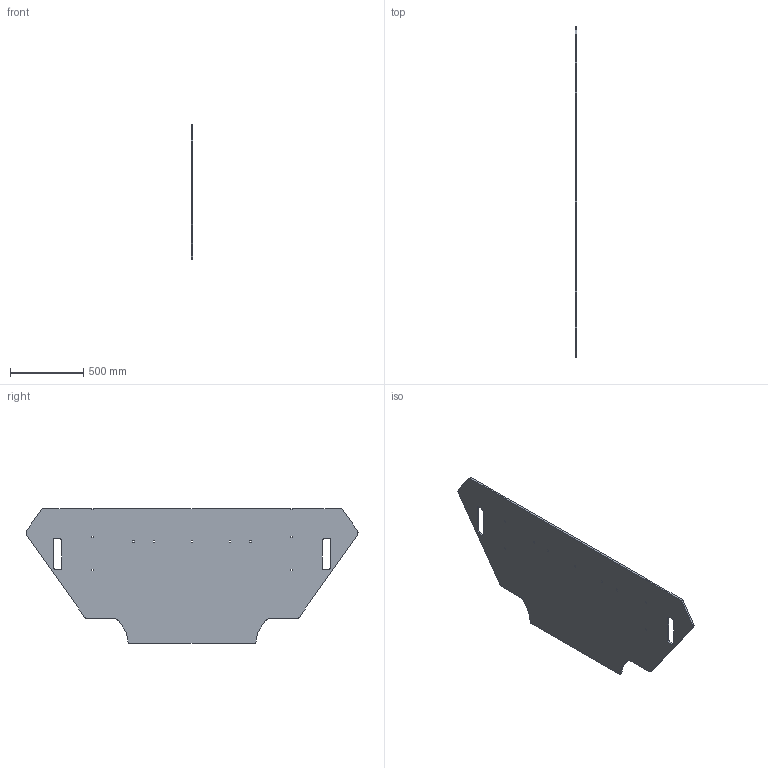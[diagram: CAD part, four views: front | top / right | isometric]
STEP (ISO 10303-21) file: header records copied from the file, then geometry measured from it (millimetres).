
FILE_DESCRIPTION(/* description */ (''),/* implementation_level */ '2;1');
FILE_NAME(/* name */ '6484821ugm000~01.stp',/* time_stamp */ '2023-11-29T07:43:26+01:00',/* author */ (''),/* organization */ (''),/* preprocessor_version */ 'ST-DEVELOPER v18.1',/* originating_system */ 'SIEMENS PLM Software NX 2000',/* authorisation */ '');
FILE_SCHEMA (('AUTOMOTIVE_DESIGN { 1 0 10303 214 0 1 1 1 }'));
Length unit declared in the file: millimetre
Products named in the file (1): 6484821ugm000~01
Bounding box: 12 x 2269.49 x 919 mm (x, y, z)
Volume: 18988148 mm3; surface area: 3248241.9 mm2
Topology: 1 solids, 1 shells, 126 faces, 372 edges, 248 vertices
Faces by surface type: cylinder 64, plane 62
Entity records: 4312 total; most frequent: DIRECTION 754, CARTESIAN_POINT 747, ORIENTED_EDGE 744, EDGE_CURVE 372, AXIS2_PLACEMENT_3D 255, VERTEX_POINT 248, LINE 244, VECTOR 244
